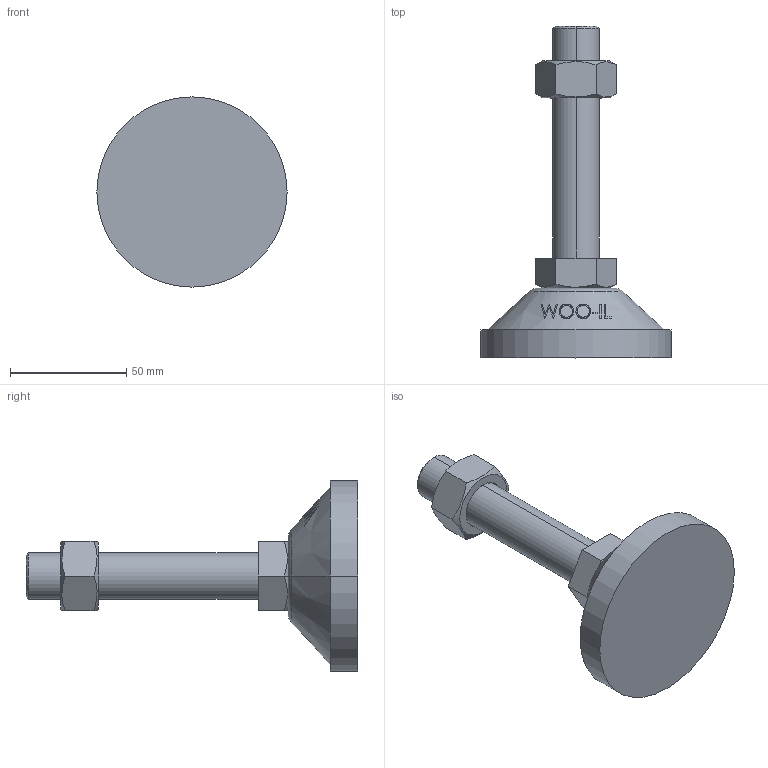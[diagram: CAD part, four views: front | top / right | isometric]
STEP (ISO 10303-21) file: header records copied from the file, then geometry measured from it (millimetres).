
FILE_DESCRIPTION (( 'STEP AP214' ), '1' );
FILE_NAME ('RL82-M20-100.step', '2021-01-06T08:18:28', ( '' ), ( '' ), 'SwSTEP 2.0', 'SolidWorks 2019', '' );
FILE_SCHEMA (( 'AUTOMOTIVE_DESIGN' ));
Length unit declared in the file: millimetre
Products named in the file (1): RL82-M20-100
Bounding box: 82 x 143 x 82 mm (x, y, z)
Volume: 159628 mm3; surface area: 27429.3 mm2
Topology: 3 solids, 3 shells, 93 faces, 221 edges, 144 vertices
Faces by surface type: plane 47, cone 22, bspline 16, cylinder 6, torus 2
Entity records: 4267 total; most frequent: CARTESIAN_POINT 2215, ORIENTED_EDGE 442, DIRECTION 349, EDGE_CURVE 221, VERTEX_POINT 144, AXIS2_PLACEMENT_3D 134, EDGE_LOOP 105, FACE_OUTER_BOUND 93
